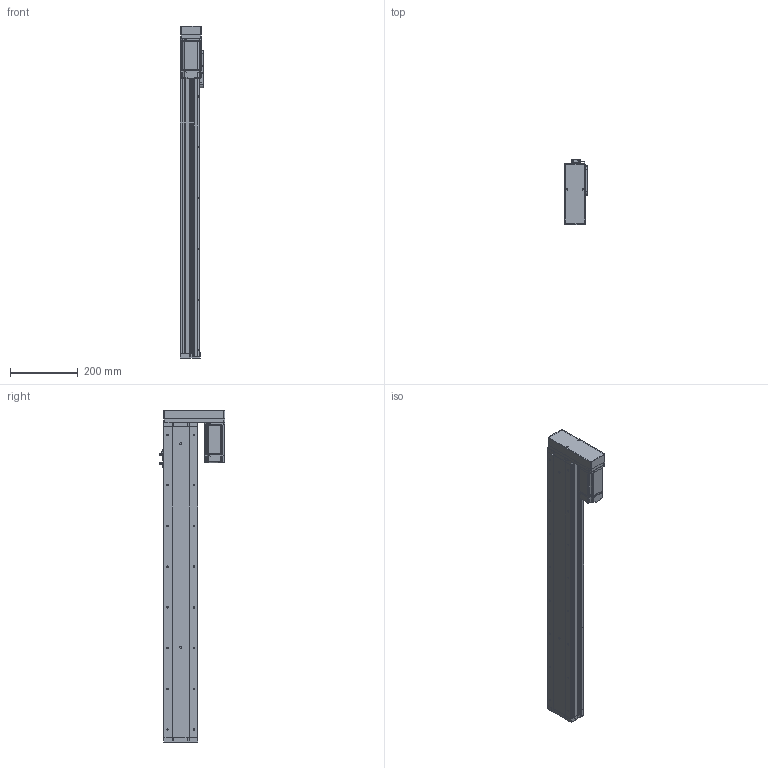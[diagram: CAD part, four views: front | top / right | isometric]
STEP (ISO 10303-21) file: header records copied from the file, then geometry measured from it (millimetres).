
FILE_DESCRIPTION (( 'STEP AP214' ), '1' );
FILE_NAME ('KSD100S-S750-MR-CR.STEP', '2019-09-03T01:25:02', ( '微软用户' ), ( '微软中国' ), 'SwSTEP 2.0', 'SolidWorks 2014', '' );
FILE_SCHEMA (( 'AUTOMOTIVE_DESIGN' ));
Length unit declared in the file: millimetre
Products named in the file (14): MHMD042G1CA_2_03; U倰嫖萇EEㄜSX672; 悵誘欶酘衵殏; 100宽马达安装板连板左右折丝杆; 感应片100宽全封闭; 100宽马达安装板全封闭; 100宽端板全封闭; 100宽滚珠螺姆安装板1防护罩; 100宽滚珠螺姆安装板1; 100遵裔啣揤啣; 100遵裔啣750俴最; 100遵耜啣750俴最佪裝; 100宽底板全封闭750行程丝杆; KSD100S-S750-MR-CR
Assembly tree (16 placements, depth 2):
  KSD100S-S750-MR-CR
    100宽底板全封闭750行程丝杆
    100遵耜啣750俴最佪裝  x2
    100遵裔啣750俴最
    100遵裔啣揤啣  x2
    100宽滚珠螺姆安装板1
    100宽滚珠螺姆安装板1防护罩
    100宽端板全封闭
    100宽马达安装板全封闭
    感应片100宽全封闭
    100宽马达安装板连板左右折丝杆
    悵誘欶酘衵殏
    U倰嫖萇EEㄜSX672  x2
    MHMD042G1CA_2_03
Bounding box: 70 x 193.7 x 978.5 mm (x, y, z)
Volume: 1982196.2 mm3; surface area: 894185.7 mm2
Topology: 15 solids, 16 shells, 1621 faces, 4516 edges, 2862 vertices
Faces by surface type: cylinder 721, plane 633, cone 249, bspline 18
Entity records: 57492 total; most frequent: CARTESIAN_POINT 9067, DIRECTION 8179, ORIENTED_EDGE 7552, EDGE_CURVE 3848, AXIS2_PLACEMENT_3D 2938, VERTEX_POINT 2548, VECTOR 2303, LINE 2303
